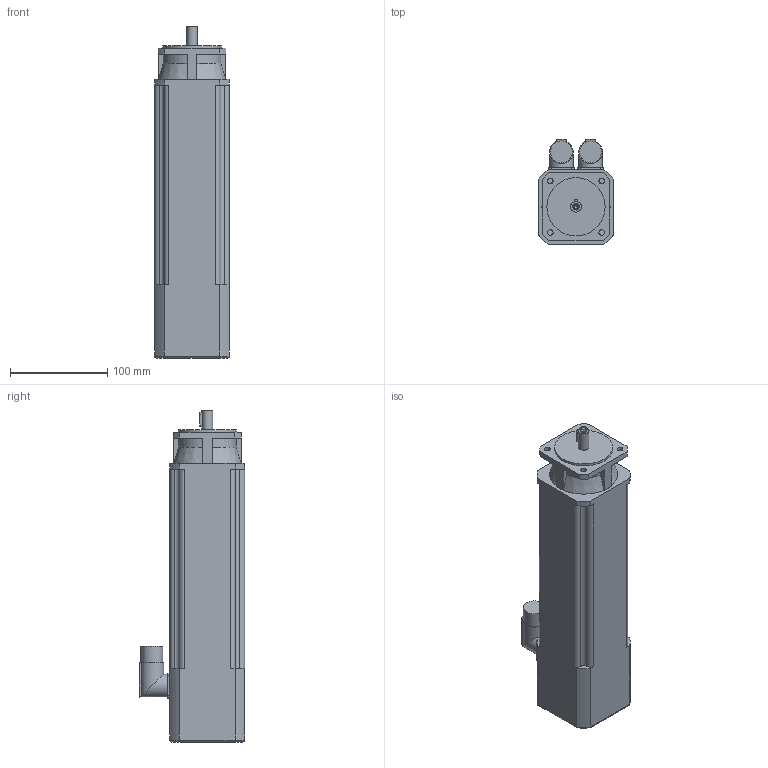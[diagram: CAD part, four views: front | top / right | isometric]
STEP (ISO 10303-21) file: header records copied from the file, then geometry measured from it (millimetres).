
FILE_DESCRIPTION(/* description */ (''),/* implementation_level */ '2;1');
FILE_NAME(/* name */ '\\Lafnas01\disegni\Archivi Lafert\3D\CAD 3D\MODELLI\Assiemi clienti\Serad\Modelli 3D Serad\B36I\Encoder\Enc With Brake\B3603Ixx6BRx2033.ipt.stp',/* time_stamp */ '2015-09-07T10:48:53+02:00',/* author */ ('Pastrello Ylenia'),/* organization */ (''),/* preprocessor_version */ 'ST-DEVELOPER v15.6',/* originating_system */ 'Autodesk Inventor 2015',/* authorisation */ '');
FILE_SCHEMA (('AUTOMOTIVE_DESIGN { 1 0 10303 214 3 1 1 }'));
Length unit declared in the file: millimetre
Products named in the file (1): B3603Ixx6BRx2033
Bounding box: 77 x 108.5 x 342 mm (x, y, z)
Volume: 1781391.4 mm3; surface area: 114383.7 mm2
Topology: 1 solids, 1 shells, 135 faces, 364 edges, 240 vertices
Faces by surface type: plane 64, cylinder 56, cone 11, torus 4
Full cylindrical faces by diameter (mm): 3.242 x1, 4.3 x1, 5.8 x4, 11 x1, 22.7 x2, 24 x2, 60 x1
Entity records: 4274 total; most frequent: CARTESIAN_POINT 876, DIRECTION 712, ORIENTED_EDGE 686, EDGE_CURVE 343, AXIS2_PLACEMENT_3D 255, VERTEX_POINT 235, LINE 202, VECTOR 202
